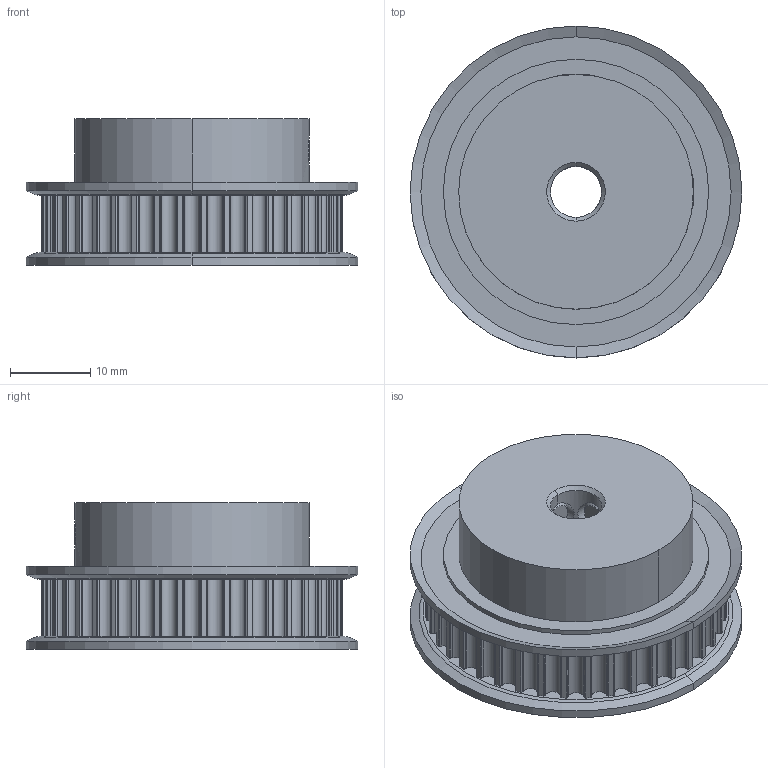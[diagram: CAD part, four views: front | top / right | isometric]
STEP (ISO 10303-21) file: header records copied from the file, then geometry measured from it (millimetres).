
FILE_DESCRIPTION((''),'2;1');
FILE_NAME('15','2024-10-16T23:14:33',('Administrator'),(''),'CREO PARAMETRIC BY PTC INC, 2020184','CREO PARAMETRIC BY PTC INC, 2020184','');
FILE_SCHEMA(('AUTOMOTIVE_DESIGN { 1 0 10303 214 1 1 1 1 }'));
Length unit declared in the file: inch
Products named in the file (1): 15
Bounding box: 41.3 x 41.3 x 18.28 mm (x, y, z)
Volume: 15749.3 mm3; surface area: 6025.1 mm2
Topology: 1 solids, 1 shells, 309 faces, 883 edges, 590 vertices
Faces by surface type: cylinder 260, plane 25, cone 20, torus 4
Entity records: 10967 total; most frequent: CARTESIAN_POINT 2159, DIRECTION 2045, ORIENTED_EDGE 1756, EDGE_CURVE 878, AXIS2_PLACEMENT_3D 860, VERTEX_POINT 580, CIRCLE 550, VECTOR 325
